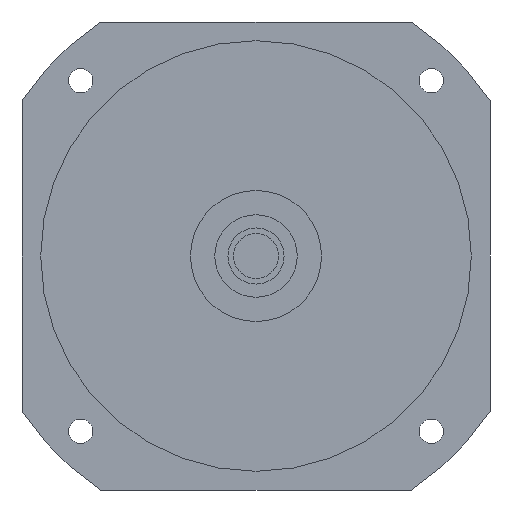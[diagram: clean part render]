
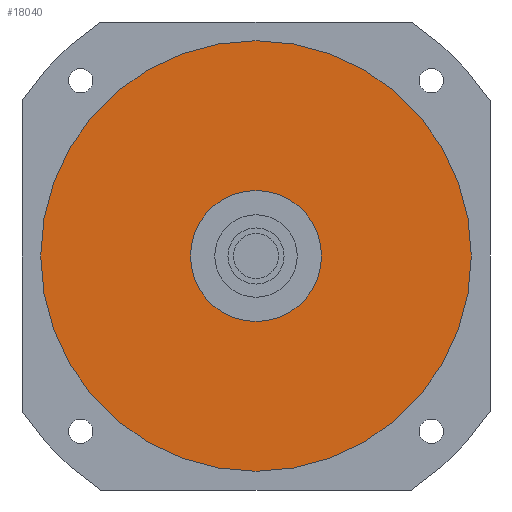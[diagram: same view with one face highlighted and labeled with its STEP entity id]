
A CAD part, left-side view. The second image highlights one B-rep face of the part: STEP entity #18040.
In plain terms, the highlighted planar face has unit normal (-1, 0, 0) as drawn and (0, 0, -1) by its records, which use the part's own axes.
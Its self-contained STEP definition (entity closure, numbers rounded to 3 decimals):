
#17460=CARTESIAN_POINT('',(115.,0.,-55.2));
#17470=VERTEX_POINT('',#17460);
#17560=CARTESIAN_POINT('',(-115.,0.,-55.2));
#17570=VERTEX_POINT('',#17560);
#17600=CARTESIAN_POINT('',(0.,0.,
-55.2));
#17610=DIRECTION('',(0.,0.,1.));
#17620=DIRECTION('',(0.,1.,0.));
#17630=AXIS2_PLACEMENT_3D('',#17600,#17610,#17620);
#17640=CIRCLE('',#17630,115.);
#17650=CARTESIAN_POINT('',(0.,115.,-55.2));
#17660=VERTEX_POINT('',#17650);
#17670=EDGE_CURVE('',#17660,#17570,#17640,.T.);
#17690=EDGE_CURVE('',#17470,#17660,#17640,.T.);
#17740=CARTESIAN_POINT('',(0.,0.,
-55.2));
#17750=DIRECTION('',(0.,0.,1.));
#17760=DIRECTION('',(-1.,0.,0.));
#17770=AXIS2_PLACEMENT_3D('',#17740,#17750,#17760);
#17780=PLANE('',#17770);
#17790=CARTESIAN_POINT('',(0.,0.,
-55.2));
#17800=DIRECTION('',(0.,0.,1.));
#17810=DIRECTION('',(0.,1.,0.));
#17820=AXIS2_PLACEMENT_3D('',#17790,#17800,#17810);
#17830=CIRCLE('',#17820,35.);
#17840=CARTESIAN_POINT('',(-35.,0.,-55.2));
#17850=VERTEX_POINT('',#17840);
#17860=CARTESIAN_POINT('',(35.,0.,-55.2));
#17870=VERTEX_POINT('',#17860);
#17880=EDGE_CURVE('',#17850,#17870,#17830,.T.);
#17890=ORIENTED_EDGE('',*,*,#17880,.T.);
#17900=CARTESIAN_POINT('',(0.,35.,-55.2));
#17910=VERTEX_POINT('',#17900);
#17920=EDGE_CURVE('',#17910,#17850,#17830,.T.);
#17930=ORIENTED_EDGE('',*,*,#17920,.T.);
#17940=EDGE_CURVE('',#17870,#17910,#17830,.T.);
#17950=ORIENTED_EDGE('',*,*,#17940,.T.);
#17960=EDGE_LOOP('',(#17950,#17930,#17890));
#17970=FACE_BOUND('',#17960,.T.);
#17980=ORIENTED_EDGE('',*,*,#17670,.F.);
#17990=EDGE_CURVE('',#17570,#17470,#17640,.T.);
#18000=ORIENTED_EDGE('',*,*,#17990,.F.);
#18010=ORIENTED_EDGE('',*,*,#17690,.F.);
#18020=EDGE_LOOP('',(#18010,#18000,#17980));
#18030=FACE_OUTER_BOUND('',#18020,.T.);
#18040=ADVANCED_FACE('',(#17970,#18030),#17780,.F.);
